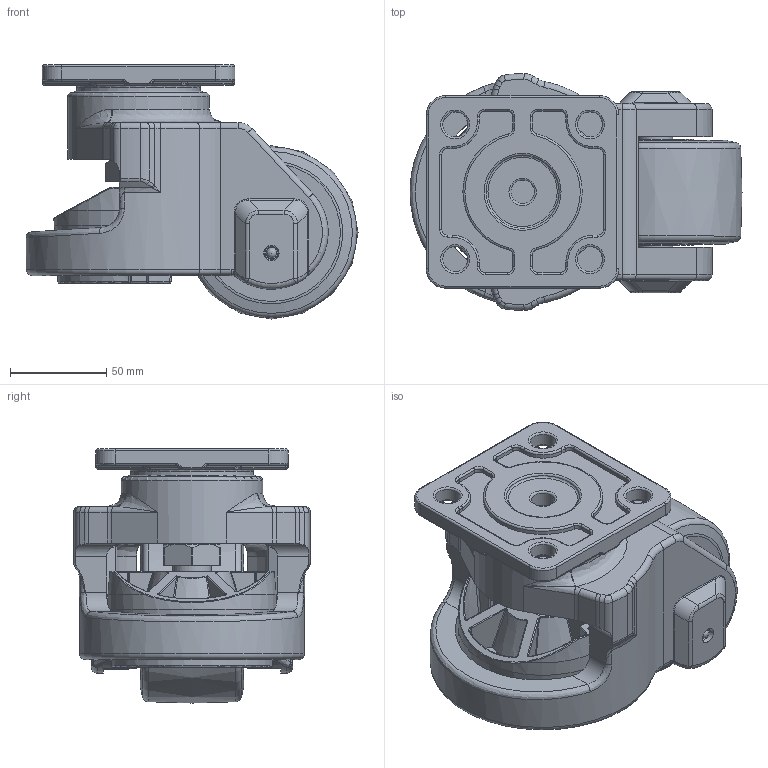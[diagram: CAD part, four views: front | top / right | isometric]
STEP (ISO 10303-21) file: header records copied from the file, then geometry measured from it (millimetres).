
FILE_DESCRIPTION((''),'2;1');
FILE_NAME('C:\gd-150\GD-150F\GD-150.stp','2012-11-17T08:36:25',('°'),(''),'Autodesk Inventor 2009','Autodesk Inventor 2009','');
FILE_SCHEMA(('AUTOMOTIVE_DESIGN { 1 0 10303 214 1 1 1 1 }'));
Length unit declared in the file: millimetre
Products named in the file (1): GD-150
Bounding box: 172.49 x 122.99 x 132 mm (x, y, z)
Volume: 1072166.9 mm3; surface area: 162324.8 mm2
Topology: 3 solids, 3 shells, 799 faces, 1963 edges, 1144 vertices
Faces by surface type: cylinder 240, bspline 213, plane 176, torus 108, cone 46, sphere 16
Full cylindrical faces by diameter (mm): 3 x2, 5.153 x1, 8.5 x1, 12.2 x1, 13 x4, 18 x1, 18.3 x1, 20 x2, 40 x2, 50 x1, 63 x1, 64 x1, 73.5 x1
Entity records: 37048 total; most frequent: CARTESIAN_POINT 19832, ORIENTED_EDGE 3592, DIRECTION 3515, EDGE_CURVE 1796, AXIS2_PLACEMENT_3D 1480, VERTEX_POINT 1103, EDGE_LOOP 911, FACE_OUTER_BOUND 799
